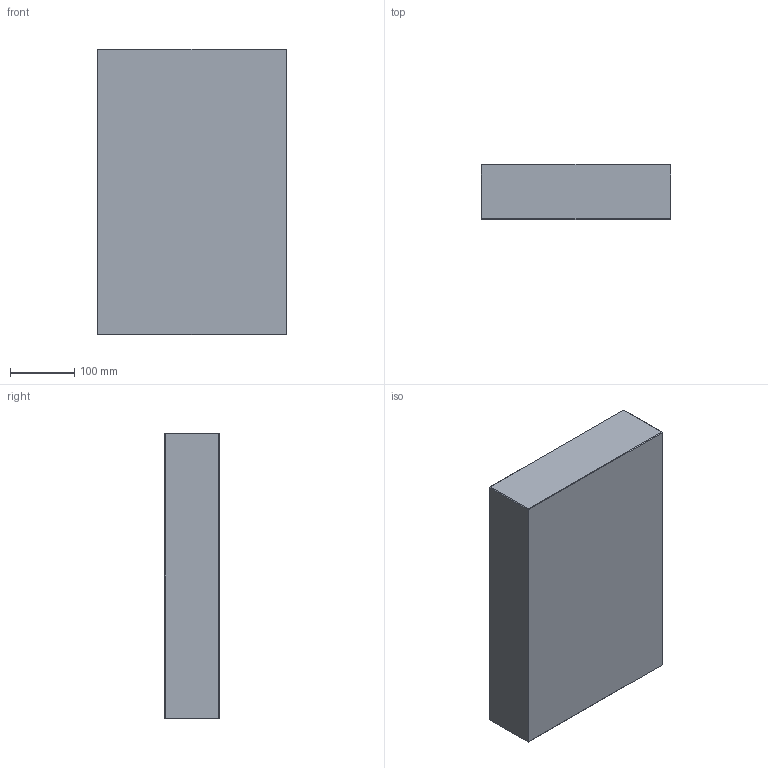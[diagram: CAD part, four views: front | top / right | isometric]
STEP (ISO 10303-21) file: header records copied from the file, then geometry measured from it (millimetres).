
FILE_DESCRIPTION (( 'STEP AP214' ), '1' );
FILE_NAME ('PC-P-296x446x86.STEP', '2020-04-01T09:54:44', ( 'August' ), ( '' ), 'SwSTEP 2.0', 'SolidWorks 2018', '' );
FILE_SCHEMA (( 'AUTOMOTIVE_DESIGN' ));
Length unit declared in the file: millimetre
Products named in the file (1): PC-P-296x446x86
Bounding box: 296 x 86 x 446 mm (x, y, z)
Volume: 11351725.3 mm3; surface area: 389712.9 mm2
Topology: 1 solids, 1 shells, 26 faces, 48 edges, 24 vertices
Faces by surface type: plane 26
Entity records: 634 total; most frequent: DIRECTION 102, CARTESIAN_POINT 99, ORIENTED_EDGE 96, VECTOR 48, LINE 48, EDGE_CURVE 48, AXIS2_PLACEMENT_3D 27, FACE_OUTER_BOUND 26
